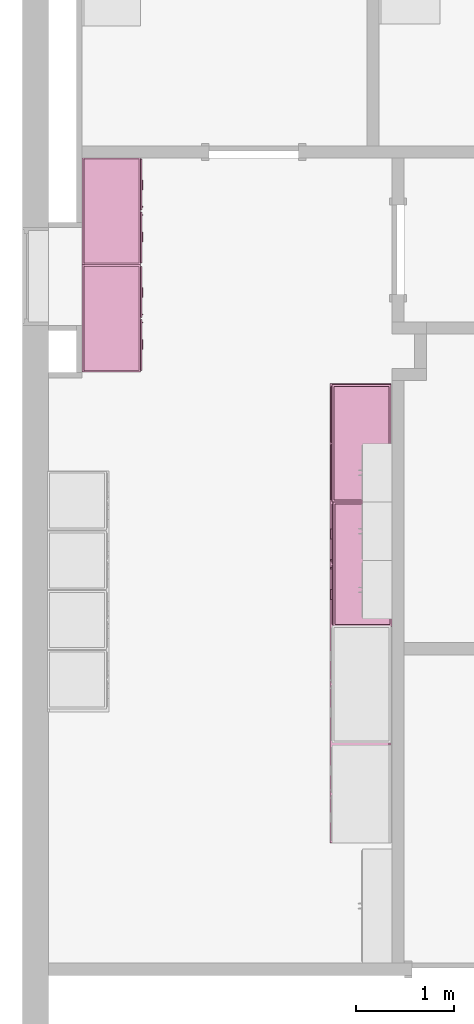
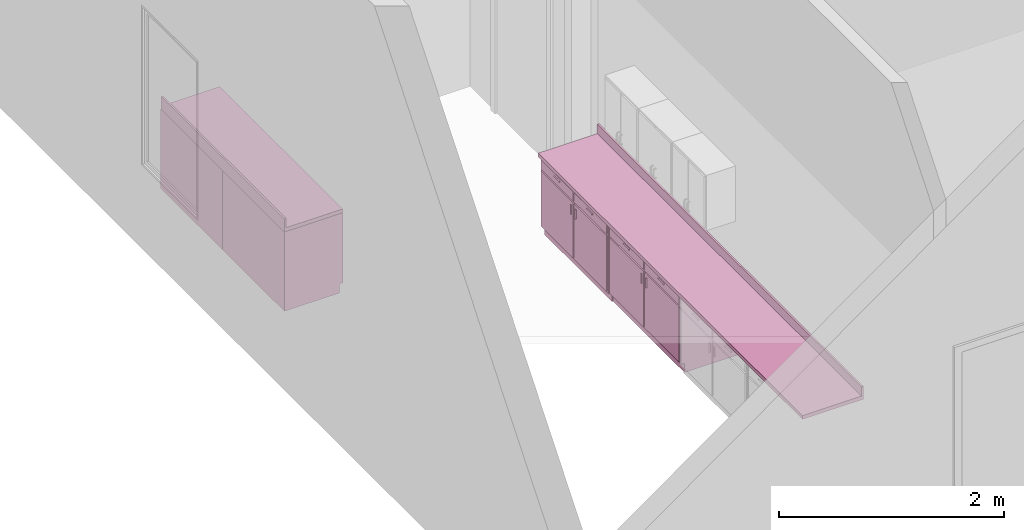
# One storey, part 43 of 47: 6 furnishings, 1 opening.
"""IFC2X3 building model written with IfcOpenShell, lengths in metres."""

import ifcopenshell
import ifcopenshell.guid

model = None  # the IFC model being written
_history = None  # IfcOwnerHistory: only IFC2X3 demands one
_inside = {}  # id of a spatial element -> (the spatial element, [elements in it])
_under = {}  # id of a project, library or spatial element -> (it, [spatial elements below it])
_declared = {}  # id of a project -> (the project, [libraries it declares])
_typed = {}  # id of a type object -> (the type object, [elements of that type])
_made_of = {}  # id of a material, layer set ... -> (it, [elements and type objects made of it])


def new_model(schema):
    """Start an empty IFC model of exactly this schema.

    Asked for "IFC4X3", IfcOpenShell would pick the latest addendum, in which some entities
    have other attributes; the version numbers below select the first issue.
    IFC2X3 requires an IfcOwnerHistory on every rooted entity: one is made here for all.
    """
    global model, _history
    if schema == "IFC4X3":
        model = ifcopenshell.file(schema_version=(4, 3, 0, 0))
    else:
        model = ifcopenshell.file(schema=schema)
    _inside.clear()
    _under.clear()
    _declared.clear()
    _typed.clear()
    _made_of.clear()
    _history = None
    if model.schema == "IFC2X3":
        org = make("IfcOrganization", Name="unknown")
        user = make(
            "IfcPersonAndOrganization",
            ThePerson=make("IfcPerson", FamilyName="unknown"),
            TheOrganization=org,
        )
        app = make(
            "IfcApplication",
            ApplicationDeveloper=org,
            Version="unknown",
            ApplicationFullName="unknown",
            ApplicationIdentifier="unknown",
        )
        _history = make(
            "IfcOwnerHistory",
            OwningUser=user,
            OwningApplication=app,
            ChangeAction="ADDED",
            CreationDate=0,
        )
    return model


def make(cls, **values):
    """One entity of the class cls with the attributes given. An attribute that is None is left unset."""
    return model.create_entity(
        cls, **{name: value for name, value in values.items() if value is not None}
    )


def entity(cls, *values):
    """Any entity or typed value of the class cls, its attributes in the order of the schema. None: left unset."""
    e = model.create_entity(cls)
    for i, value in enumerate(values):
        if value is not None:
            e[i] = value
    return e


def rooted(cls, **values):
    """An entity with a GlobalId (a new one), such as an element, a storey or a relation."""
    return make(cls, GlobalId=ifcopenshell.guid.new(), OwnerHistory=_history, **values)


def si_unit(unit_type, name, prefix=None):
    """IfcSIUnit, for example si_unit("LENGTHUNIT", "METRE", prefix="MILLI")."""
    return make("IfcSIUnit", UnitType=unit_type, Prefix=prefix, Name=name)


def converted_unit(unit_type, name, factor, base, dimensions=None, offset=None):
    """IfcConversionBasedUnit, such as the inch: factor (a typed value) times the base unit."""
    return make(
        "IfcConversionBasedUnit"
        if offset is None
        else "IfcConversionBasedUnitWithOffset",
        ConversionOffset=offset,
        Dimensions=None
        if dimensions is None
        else entity("IfcDimensionalExponents", *dimensions),
        UnitType=unit_type,
        Name=name,
        ConversionFactor=make(
            "IfcMeasureWithUnit", ValueComponent=factor, UnitComponent=base
        ),
    )


def assignment(units):
    """IfcUnitAssignment: the units of a project."""
    return None if units is None else make("IfcUnitAssignment", Units=units)


def point(xyz):
    """IfcCartesianPoint."""
    return None if xyz is None else make("IfcCartesianPoint", Coordinates=xyz)


def direction(xyz):
    """IfcDirection."""
    return None if xyz is None else make("IfcDirection", DirectionRatios=xyz)


def frame(location, z_axis=None, x_axis=None):
    """IfcAxis2Placement3D, a coordinate frame: its origin and axes. An axis left out is left unset."""
    return make(
        "IfcAxis2Placement3D",
        Location=point(location),
        Axis=direction(z_axis),
        RefDirection=direction(x_axis),
    )


def frame_2d(location, x_axis=None):
    """IfcAxis2Placement2D, a coordinate frame in the plane: its origin and x axis."""
    return make(
        "IfcAxis2Placement2D", Location=point(location), RefDirection=direction(x_axis)
    )


def origin():
    """The frame at (0, 0, 0) with its axes left unset."""
    return frame((0.0, 0.0, 0.0))


def origin_2d_with_axis():
    """The frame at (0, 0) in the plane with the x axis (1, 0) written out."""
    return frame_2d((0.0, 0.0), x_axis=(1.0, 0.0))


def place(relative_to, where):
    """IfcLocalPlacement: puts the frame where relative to a parent placement (None: the world)."""
    return make(
        "IfcLocalPlacement", PlacementRelTo=relative_to, RelativePlacement=where
    )


def context(
    kind, dimensions, precision=None, world=None, true_north=None, identifier=None
):
    """IfcGeometricRepresentationContext, for example the 3D "Model" context."""
    return make(
        "IfcGeometricRepresentationContext",
        ContextIdentifier=identifier,
        ContextType=kind,
        CoordinateSpaceDimension=dimensions,
        Precision=precision,
        WorldCoordinateSystem=world,
        TrueNorth=true_north,
    )


def project(units=None, contexts=None):
    """IfcProject with its units and contexts."""
    return rooted(
        "IfcProject",
        Name="project",
        RepresentationContexts=contexts,
        UnitsInContext=assignment(units),
    )


def spatial(cls, under=None, at=None, **own):
    """A site, building, storey or space (cls), placed at a placement, below another one or the project."""
    s = rooted(cls, ObjectPlacement=at, **own)
    if under is not None:
        _under.setdefault(under.id(), (under, []))[1].append(s)
    return s


def polyline(points):
    """IfcPolyline through the points."""
    return make("IfcPolyline", Points=[point(p) for p in points])


def circle_curve(where, radius):
    """IfcCircle in the frame where."""
    return make("IfcCircle", Position=where, Radius=radius)


def parameter(value):
    """IfcParameterValue: where a trimmed curve begins or ends, as a parameter of its basis curve."""
    return model.create_entity("IfcParameterValue", value)


def trimmed(basis, trim1, trim2, sense, master):
    """IfcTrimmedCurve: the piece of a basis curve between two trims."""
    return make(
        "IfcTrimmedCurve",
        BasisCurve=basis,
        Trim1=trim1,
        Trim2=trim2,
        SenseAgreement=sense,
        MasterRepresentation=master,
    )


def segment(curve, same_sense, transition):
    """IfcCompositeCurveSegment."""
    return make(
        "IfcCompositeCurveSegment",
        Transition=transition,
        SameSense=same_sense,
        ParentCurve=curve,
    )


def composite_curve(segments, self_intersect=None):
    """IfcCompositeCurve: segments joined end to end."""
    return make("IfcCompositeCurve", Segments=segments, SelfIntersect=self_intersect)


def profile(cls, at=None, kind="AREA", **sizes):
    """A parametric profile (cls). Its sizes go by their IFC names, for example OverallWidth=200.0."""
    return make(cls, ProfileType=kind, Position=at, **sizes)


def rectangle(**sizes):
    """IfcRectangleProfileDef."""
    return profile("IfcRectangleProfileDef", **sizes)


def outline(outer, holes=None, kind="AREA"):
    """IfcArbitraryClosedProfileDef: a profile drawn as a closed curve; with holes, ...WithVoids."""
    if holes is None:
        return make("IfcArbitraryClosedProfileDef", ProfileType=kind, OuterCurve=outer)
    return make(
        "IfcArbitraryProfileDefWithVoids",
        ProfileType=kind,
        OuterCurve=outer,
        InnerCurves=holes,
    )


def extrude(swept, where, along, depth):
    """IfcExtrudedAreaSolid: the profile swept, set in the frame where, extruded along a direction by depth."""
    return make(
        "IfcExtrudedAreaSolid",
        SweptArea=swept,
        Position=where,
        ExtrudedDirection=direction(along),
        Depth=depth,
    )


def faces_of(points, faces, orient=None, outer=None):
    """IfcFace entities. A face is a list of loops; a loop is a list of indices into points, from 0.

    orient and outer hold one flag for each loop. By default every Orientation is true, the
    first loop of a face is its IfcFaceOuterBound and the others are IfcFaceBound.
    """
    made = []
    for i, loops in enumerate(faces):
        bounds = []
        for j, loop in enumerate(loops):
            is_outer = j == 0 if outer is None else outer[i][j]
            bounds.append(
                make(
                    "IfcFaceOuterBound" if is_outer else "IfcFaceBound",
                    Bound=make("IfcPolyLoop", Polygon=[points[k] for k in loop]),
                    Orientation=True if orient is None else orient[i][j],
                )
            )
        made.append(make("IfcFace", Bounds=bounds))
    return made


def face_set(faces, orient=None, outer=None):
    """The faces of one IfcConnectedFaceSet. surface_model builds it on its shared points."""
    return ("IfcConnectedFaceSet", faces, orient, outer)


def surface_model(cls, points, shells):
    """IfcFaceBasedSurfaceModel or IfcShellBasedSurfaceModel (cls): surfaces that need not close."""
    shared = [point(p) for p in points]
    made = [make(c, CfsFaces=faces_of(shared, fs, o, b)) for c, fs, o, b in shells]
    if cls == "IfcFaceBasedSurfaceModel":
        return make(cls, FbsmFaces=made)
    return make(cls, SbsmBoundary=made)


def shape(context_of_items, identifier, shape_type, items):
    """IfcShapeRepresentation: the items that make up one representation, for example the "Body"."""
    return make(
        "IfcShapeRepresentation",
        ContextOfItems=context_of_items,
        RepresentationIdentifier=identifier,
        RepresentationType=shape_type,
        Items=items,
    )


def source(mapping_origin, context_of_items, identifier, shape_type, items):
    """IfcRepresentationMap: a shape defined once, which mapped items show again and again."""
    return make(
        "IfcRepresentationMap",
        MappingOrigin=mapping_origin,
        MappedRepresentation=shape(context_of_items, identifier, shape_type, items),
    )


def transform(
    local_origin,
    x_axis=None,
    y_axis=None,
    z_axis=None,
    scale=None,
    scale2=None,
    scale3=None,
    uniform=True,
):
    """IfcCartesianTransformationOperator3D, or its non-uniform kind. x_axis, y_axis, z_axis: its Axis1, 2, 3."""
    if uniform:
        return make(
            "IfcCartesianTransformationOperator3D",
            Axis1=direction(x_axis),
            Axis2=direction(y_axis),
            LocalOrigin=point(local_origin),
            Scale=scale,
            Axis3=direction(z_axis),
        )
    return make(
        "IfcCartesianTransformationOperator3DnonUniform",
        Axis1=direction(x_axis),
        Axis2=direction(y_axis),
        LocalOrigin=point(local_origin),
        Scale=scale,
        Axis3=direction(z_axis),
        Scale2=scale2,
        Scale3=scale3,
    )


def mapped(mapping_source, mapping_target):
    """IfcMappedItem: shows the shape of a source again, moved by a transform."""
    return make(
        "IfcMappedItem", MappingSource=mapping_source, MappingTarget=mapping_target
    )


def made_of(thing, what):
    """Note that an element or type object is made of a material, layer set ...; save() writes the relation."""
    if what is not None:
        _made_of.setdefault(what.id(), (what, []))[1].append(thing)
    return thing


def type_object(cls, material=None, **own):
    """A type object (cls), such as IfcWallType, which elements share."""
    return made_of(rooted(cls, **own), material)


def type_shapes(of_type, sources):
    """Give a type object the sources (RepresentationMaps) that its elements show as mapped items."""
    of_type.RepresentationMaps = sources


def element(
    cls,
    number,
    at=None,
    inside=None,
    cuts=None,
    type_object=None,
    material=None,
    context=None,
    identifier="Body",
    shape_type=None,
    held_by="IfcProductDefinitionShape",
    body=None,
    shapes=None,
    **own,
):
    """One element of the class cls, such as IfcWall. Its Tag is "e" and its number.

    at: its placement. inside: the storey or other place that contains it. cuts: it is an
    opening in that element (IfcRelVoidsElement). A single representation is given by context,
    identifier, shape_type and body (its items); several are given by shapes. held_by: the class
    of the entity that holds the representations. save() writes the other relations.
    """
    e = rooted(cls, Tag="e%d" % number, ObjectPlacement=at, **own)
    if body is not None:
        shapes = [shape(context, identifier, shape_type, body)]
    if shapes is not None:
        e.Representation = make(held_by, Representations=shapes)
    if inside is not None:
        _inside.setdefault(inside.id(), (inside, []))[1].append(e)
    if cuts is not None:
        rooted(
            "IfcRelVoidsElement", RelatingBuildingElement=cuts, RelatedOpeningElement=e
        )
    if type_object is not None:
        _typed.setdefault(type_object.id(), (type_object, []))[1].append(e)
    return made_of(e, material)


def aggregate(whole, parts):
    """IfcRelAggregates: a whole, such as a stair, and the parts it consists of."""
    return rooted("IfcRelAggregates", RelatingObject=whole, RelatedObjects=parts)


def save(model, path):
    """Write the relations noted so far, then the file.

    IfcRelAggregates (storeys below a building ...), IfcRelContainedInSpatialStructure (elements
    in a storey), IfcRelDefinesByType, IfcRelAssociatesMaterial and IfcRelDeclares: one each for
    every whole, place, type object, material and project.
    """
    for whole, parts in _under.values():
        aggregate(whole, parts)
    for where, things in _inside.values():
        rooted(
            "IfcRelContainedInSpatialStructure",
            RelatedElements=things,
            RelatingStructure=where,
        )
    for kind, things in _typed.values():
        rooted("IfcRelDefinesByType", RelatedObjects=things, RelatingType=kind)
    for what, things in _made_of.values():
        rooted("IfcRelAssociatesMaterial", RelatedObjects=things, RelatingMaterial=what)
    for by, libraries in _declared.values():
        rooted("IfcRelDeclares", RelatingContext=by, RelatedDefinitions=libraries)
    model.write(path)


model = new_model("IFC2X3")

# Units and contexts
model_context = context("Model", 3, precision=1e-09, world=origin())
plan_context = context("Plan", 3, precision=1e-09, world=origin())
ifc_project = project(units=[si_unit("LENGTHUNIT", "METRE"), si_unit("AREAUNIT", "SQUARE_METRE"), si_unit("VOLUMEUNIT", "CUBIC_METRE"), converted_unit("PLANEANGLEUNIT", "DEGREE", entity("IfcRatioMeasure", 0.01745329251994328), si_unit("PLANEANGLEUNIT", "RADIAN"), dimensions=[0, 0, 0, 0, 0, 0, 0]), si_unit("TIMEUNIT", "SECOND")], contexts=[model_context, plan_context])

# Site, building, storey, space
site_placement = place(None, origin())
site = spatial("IfcSite", under=ifc_project, at=site_placement, Name="Default", CompositionType="ELEMENT")
building_placement = place(site_placement, origin())
building = spatial("IfcBuilding", under=site, at=building_placement, CompositionType="ELEMENT")
storey_placement = place(building_placement, frame((0.0, 0.0, 4.570000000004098)))
storey = spatial("IfcBuildingStorey", under=building, at=storey_placement, Name="Second Floor", CompositionType="ELEMENT", Elevation=4.570000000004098)
space_placement = place(storey_placement, origin())
space = spatial("IfcSpace", under=storey, at=space_placement, Name="2C17", CompositionType="ELEMENT", InteriorOrExteriorSpace="INTERNAL")

# Furnishings
furniture_type_1 = type_object("IfcFurnitureType", Name="1200mm", AssemblyPlace="NOTDEFINED")
shared_shape_1 = source(origin(), model_context, "Body", "SurfaceModel", [
    surface_model("IfcFaceBasedSurfaceModel", [(1.180949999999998, 0.04445000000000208, 0.86000000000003), (1.180949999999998, 0.04445000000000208, 0.09999999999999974), (0.01905000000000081, 0.04445000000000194, 0.09999999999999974), (0.01905000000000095, 0.04445000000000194, 0.86000000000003), (1.2, 0.02540000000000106, 0.8600000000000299), (0.0, 0.02540000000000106, 0.8600000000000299), (1.2, 0.02540000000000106, 0.09999999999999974), (0.0, 0.02540000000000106, 0.0999999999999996), (0.01905000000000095, 0.6063499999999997, 0.86000000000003), (0.01905000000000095, 0.6063499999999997, 0.09999999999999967), (0.01905000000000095, 0.06040000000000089, 0.09999999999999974), (0.0, 0.6254000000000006, 0.8600000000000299), (0.0, 0.6254000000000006, 0.0), (0.0, 0.06040000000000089, 0.0), (0.0, 0.06040000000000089, 0.09999999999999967), (1.180949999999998, 0.6063499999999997, 0.86000000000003), (1.180949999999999, 0.6063499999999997, 0.09999999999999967), (1.2, 0.6254000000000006, 0.8600000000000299), (1.2, 0.6254000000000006, 0.0), (1.180949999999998, 0.06040000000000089, 0.09999999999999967), (1.2, 0.06040000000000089, 0.09999999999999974), (1.2, 0.06040000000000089, 0.0), (0.3603250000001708, 0.0, 0.8155500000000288), (0.3603250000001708, 0.0, 0.8028500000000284), (0.258725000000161, 0.0, 0.8028500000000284), (0.258725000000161, 0.0, 0.8155500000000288), (0.9412750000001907, 0.0, 0.8155500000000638), (0.9412750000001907, 0.0, 0.8028500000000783), (0.8396750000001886, 0.0, 0.8028500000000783), (0.8396750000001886, 0.0, 0.8155500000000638), (0.5650750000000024, 0.0, 0.6822000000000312), (0.5650750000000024, 0.0, 0.5806000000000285), (0.5523750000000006, 0.0, 0.5806000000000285), (0.5523750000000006, 0.0, 0.6822000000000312), (0.6476249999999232, 0.0, 0.6822000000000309), (0.6476249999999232, 0.0, 0.5806000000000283), (0.6349249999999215, 0.0, 0.5806000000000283), (0.6349249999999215, 0.0, 0.6822000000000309), (0.3603250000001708, 0.01270000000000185, 0.8155500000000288), (0.3603250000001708, 0.01270000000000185, 0.8028500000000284), (0.2587250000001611, 0.01270000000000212, 0.8028500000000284), (0.2587250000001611, 0.01270000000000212, 0.8155500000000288), (0.9412750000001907, 0.01269999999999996, 0.8155500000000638), (0.9412750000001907, 0.01269999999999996, 0.8028500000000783), (0.8396750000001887, 0.01270000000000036, 0.8028500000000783), (0.8396750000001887, 0.01270000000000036, 0.8155500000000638), (0.5650750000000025, 0.01270000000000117, 0.6822000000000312), (0.5650750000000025, 0.01270000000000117, 0.5806000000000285), (0.5523750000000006, 0.01270000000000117, 0.5806000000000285), (0.5523750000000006, 0.01270000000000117, 0.6822000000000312), (0.6476249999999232, 0.0127000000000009, 0.6822000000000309), (0.6476249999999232, 0.0127000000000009, 0.5806000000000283), (0.6349249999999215, 0.0127000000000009, 0.5806000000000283), (0.6349249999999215, 0.0127000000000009, 0.6822000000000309), (0.5904749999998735, 0.01270000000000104, 0.8409500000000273), (0.5904749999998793, 0.01270000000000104, 0.7393500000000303), (0.01905000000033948, 0.0127000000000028, 0.7393500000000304), (0.01905000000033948, 0.0127000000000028, 0.8409500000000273), (1.180950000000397, 0.01269999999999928, 0.8409500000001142), (1.180950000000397, 0.01269999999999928, 0.7393500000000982), (0.6095249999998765, 0.01270000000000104, 0.7393500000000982), (0.6095249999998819, 0.01270000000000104, 0.8409500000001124), (0.5904749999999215, 0.01270000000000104, 0.7203000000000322), (0.5904749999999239, 0.01270000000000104, 0.1190499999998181), (0.01905000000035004, 0.0127000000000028, 0.1190499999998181), (0.01905000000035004, 0.0127000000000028, 0.7203000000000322), (1.180950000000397, 0.01269999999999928, 0.7203000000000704), (1.180950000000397, 0.01269999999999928, 0.1190499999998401), (0.6095249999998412, 0.01270000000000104, 0.1190499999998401), (0.6095249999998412, 0.01270000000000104, 0.7203000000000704), (0.5904749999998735, 0.02540000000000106, 0.8409500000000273), (0.5904749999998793, 0.02540000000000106, 0.7393500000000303), (0.01905000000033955, 0.02540000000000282, 0.7393500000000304), (0.01905000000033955, 0.02540000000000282, 0.8409500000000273), (1.180950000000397, 0.02539999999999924, 0.8409500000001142), (1.180950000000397, 0.02539999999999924, 0.7393500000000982), (0.6095249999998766, 0.025400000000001, 0.7393500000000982), (0.6095249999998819, 0.025400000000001, 0.8409500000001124), (0.5904749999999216, 0.02540000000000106, 0.7203000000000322), (0.5904749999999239, 0.02540000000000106, 0.1190499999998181), (0.01905000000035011, 0.02540000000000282, 0.1190499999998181), (0.01905000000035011, 0.02540000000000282, 0.7203000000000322), (1.180950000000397, 0.02539999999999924, 0.7203000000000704), (1.180950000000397, 0.02539999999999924, 0.1190499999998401), (0.6095249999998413, 0.025400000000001, 0.1190499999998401), (0.6095249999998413, 0.025400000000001, 0.7203000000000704), (1.180949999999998, 0.6063499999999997, 0.1190499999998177), (1.180949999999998, 0.04445000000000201, 0.1190499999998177), (0.01905000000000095, 0.04445000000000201, 0.1190499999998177), (0.01905000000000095, 0.6063499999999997, 0.1190499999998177), (1.180949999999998, 0.6063499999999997, 0.09999999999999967), (1.180949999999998, 0.04445000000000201, 0.09999999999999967), (0.01905000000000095, 0.04445000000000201, 0.09999999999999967), (0.01905000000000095, 0.6063499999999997, 0.09999999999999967)], [face_set([[[0, 1, 2, 3]], [[0, 4, 5, 3]], [[4, 6, 7, 5]], [[2, 1, 6, 7]], [[3, 8, 9, 10, 2]], [[5, 11, 8, 3]], [[7, 5, 11, 12, 13, 14]], [[2, 7, 14, 10]], [[8, 15, 16, 9]], [[11, 17, 15, 8]], [[12, 11, 17, 18]], [[1, 19, 16, 15, 0]], [[0, 15, 17, 4]], [[4, 6, 20, 21, 18, 17]], [[6, 1, 19, 20]], [[10, 9, 16, 19]], [[18, 21, 13, 12]], [[13, 14, 10, 19, 20, 21]]]), face_set([[[22, 23, 24, 25]], [[26, 27, 28, 29]], [[30, 31, 32, 33]], [[34, 35, 36, 37]], [[38, 39, 40, 41]], [[42, 43, 44, 45]], [[46, 47, 48, 49]], [[50, 51, 52, 53]], [[25, 41, 38, 22]], [[24, 40, 41, 25]], [[23, 24, 40, 39]], [[22, 23, 39, 38]], [[29, 45, 42, 26]], [[28, 44, 45, 29]], [[27, 28, 44, 43]], [[26, 27, 43, 42]], [[33, 49, 46, 30]], [[32, 48, 49, 33]], [[31, 32, 48, 47]], [[30, 31, 47, 46]], [[37, 53, 50, 34]], [[36, 52, 53, 37]], [[35, 36, 52, 51]], [[34, 35, 51, 50]]]), face_set([[[54, 55, 56, 57]], [[58, 59, 60, 61]], [[62, 63, 64, 65]], [[66, 67, 68, 69]], [[70, 71, 72, 73]], [[74, 75, 76, 77]], [[78, 79, 80, 81]], [[82, 83, 84, 85]], [[57, 73, 70, 54]], [[56, 57, 73, 72]], [[55, 56, 72, 71]], [[54, 55, 71, 70]], [[61, 77, 74, 58]], [[60, 76, 77, 61]], [[59, 60, 76, 75]], [[58, 59, 75, 74]], [[65, 81, 78, 62]], [[64, 65, 81, 80]], [[63, 64, 80, 79]], [[62, 63, 79, 78]], [[69, 85, 82, 66]], [[68, 84, 85, 69]], [[67, 68, 84, 83]], [[66, 67, 83, 82]]]), face_set([[[86, 87, 88, 89]], [[90, 91, 92, 93]], [[89, 86, 90, 93]], [[88, 89, 93, 92]], [[87, 91, 92, 88]], [[86, 87, 91, 90]]])]),
])
type_shapes(furniture_type_1, [shared_shape_1])
furnishing_1_placement = place(space_placement, frame((-44.23500000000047, 44.4370404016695, 0.0), z_axis=(0.0, 0.0, 1.0), x_axis=(0.0, -1.0, 0.0)))
element("IfcFurnishingElement", 1, at=furnishing_1_placement, inside=space, type_object=furniture_type_1, Name="M_Base Cabinet-Double Door & 2 Drawer:1200mm:1200mm", ObjectType="1200mm", context=model_context, shape_type="MappedRepresentation", body=[
    mapped(shared_shape_1, transform((0.0, 0.0, 0.0), scale=1.0)),
])
furniture_type_2 = type_object("IfcFurnitureType", Name="1270mm", AssemblyPlace="NOTDEFINED")
shared_shape_2 = source(origin(), model_context, "Body", "SurfaceModel", [
    surface_model("IfcFaceBasedSurfaceModel", [(1.250949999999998, 0.04445000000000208, 0.86000000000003), (1.250949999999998, 0.04445000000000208, 0.09999999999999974), (0.01905000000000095, 0.04445000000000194, 0.09999999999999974), (0.01905000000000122, 0.04445000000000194, 0.86000000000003), (1.269999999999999, 0.02540000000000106, 0.8600000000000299), (0.0, 0.02540000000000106, 0.8600000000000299), (1.269999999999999, 0.02540000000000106, 0.09999999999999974), (0.0, 0.02540000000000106, 0.0999999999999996), (0.01905000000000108, 0.6063499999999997, 0.86000000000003), (0.01905000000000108, 0.6063499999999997, 0.09999999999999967), (0.01905000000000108, 0.06040000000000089, 0.09999999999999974), (0.0, 0.6254000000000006, 0.8600000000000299), (0.0, 0.6254000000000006, 0.0), (0.0, 0.06040000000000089, 0.0), (0.0, 0.06040000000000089, 0.09999999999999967), (1.250949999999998, 0.6063499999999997, 0.86000000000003), (1.250949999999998, 0.6063499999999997, 0.09999999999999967), (1.269999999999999, 0.6254000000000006, 0.8600000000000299), (1.269999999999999, 0.6254000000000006, 0.0), (1.250949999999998, 0.06040000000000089, 0.09999999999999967), (1.269999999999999, 0.06040000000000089, 0.09999999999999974), (1.269999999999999, 0.06040000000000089, 0.0), (0.3778250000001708, 0.0, 0.8155500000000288), (0.3778250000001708, 0.0, 0.8028500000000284), (0.276225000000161, 0.0, 0.8028500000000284), (0.276225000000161, 0.0, 0.8155500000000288), (0.9937750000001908, 0.0, 0.8155500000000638), (0.9937750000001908, 0.0, 0.8028500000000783), (0.8921750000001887, 0.0, 0.8028500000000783), (0.8921750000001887, 0.0, 0.8155500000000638), (0.6000750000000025, 0.0, 0.6822000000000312), (0.6000750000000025, 0.0, 0.5806000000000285), (0.5873750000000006, 0.0, 0.5806000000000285), (0.5873750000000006, 0.0, 0.6822000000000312), (0.6826249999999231, 0.0, 0.6822000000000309), (0.6826249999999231, 0.0, 0.5806000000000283), (0.6699249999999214, 0.0, 0.5806000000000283), (0.6699249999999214, 0.0, 0.6822000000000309), (0.3778250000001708, 0.01270000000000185, 0.8155500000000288), (0.3778250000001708, 0.01270000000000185, 0.8028500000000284), (0.2762250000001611, 0.01270000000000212, 0.8028500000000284), (0.276225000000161, 0.01270000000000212, 0.8155500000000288), (0.993775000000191, 0.01269999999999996, 0.8155500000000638), (0.993775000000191, 0.01269999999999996, 0.8028500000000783), (0.8921750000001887, 0.01270000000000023, 0.8028500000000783), (0.8921750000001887, 0.01270000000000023, 0.8155500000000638), (0.6000750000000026, 0.01270000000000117, 0.6822000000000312), (0.6000750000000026, 0.01270000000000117, 0.5806000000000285), (0.5873750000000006, 0.01270000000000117, 0.5806000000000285), (0.5873750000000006, 0.01270000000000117, 0.6822000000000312), (0.6826249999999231, 0.0127000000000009, 0.6822000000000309), (0.6826249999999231, 0.0127000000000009, 0.5806000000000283), (0.6699249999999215, 0.0127000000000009, 0.5806000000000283), (0.6699249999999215, 0.0127000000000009, 0.6822000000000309), (0.6254749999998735, 0.01270000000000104, 0.8409500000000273), (0.6254749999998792, 0.01270000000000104, 0.7393500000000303), (0.01905000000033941, 0.01270000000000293, 0.7393500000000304), (0.01905000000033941, 0.01270000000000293, 0.8409500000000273), (1.250950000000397, 0.01269999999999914, 0.8409500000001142), (1.250950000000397, 0.01269999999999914, 0.7393500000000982), (0.6445249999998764, 0.01270000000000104, 0.7393500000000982), (0.6445249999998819, 0.01270000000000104, 0.8409500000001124), (0.6254749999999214, 0.01270000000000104, 0.7203000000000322), (0.6254749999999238, 0.01270000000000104, 0.1190499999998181), (0.01905000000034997, 0.01270000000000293, 0.1190499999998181), (0.01905000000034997, 0.01270000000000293, 0.7203000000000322), (1.250950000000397, 0.01269999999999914, 0.7203000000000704), (1.250950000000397, 0.01269999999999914, 0.1190499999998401), (0.6445249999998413, 0.01270000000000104, 0.1190499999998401), (0.6445249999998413, 0.01270000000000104, 0.7203000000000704), (0.6254749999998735, 0.025400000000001, 0.8409500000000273), (0.6254749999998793, 0.025400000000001, 0.7393500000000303), (0.01905000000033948, 0.02540000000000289, 0.7393500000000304), (0.01905000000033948, 0.02540000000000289, 0.8409500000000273), (1.250950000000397, 0.0253999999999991, 0.8409500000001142), (1.250950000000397, 0.0253999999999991, 0.7393500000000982), (0.6445249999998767, 0.025400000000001, 0.7393500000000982), (0.6445249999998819, 0.025400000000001, 0.8409500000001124), (0.6254749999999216, 0.025400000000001, 0.7203000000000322), (0.625474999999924, 0.025400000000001, 0.1190499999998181), (0.01905000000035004, 0.02540000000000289, 0.1190499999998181), (0.01905000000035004, 0.02540000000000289, 0.7203000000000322), (1.250950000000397, 0.0253999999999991, 0.7203000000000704), (1.250950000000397, 0.0253999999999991, 0.1190499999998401), (0.6445249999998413, 0.025400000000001, 0.1190499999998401), (0.6445249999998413, 0.025400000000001, 0.7203000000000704), (1.250949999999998, 0.6063499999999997, 0.1190499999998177), (1.250949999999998, 0.04445000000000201, 0.1190499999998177), (0.01905000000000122, 0.04445000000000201, 0.1190499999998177), (0.01905000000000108, 0.6063499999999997, 0.1190499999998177), (1.250949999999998, 0.6063499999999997, 0.09999999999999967), (1.250949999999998, 0.04445000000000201, 0.09999999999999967), (0.01905000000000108, 0.04445000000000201, 0.09999999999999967), (0.01905000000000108, 0.6063499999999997, 0.09999999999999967)], [face_set([[[0, 1, 2, 3]], [[0, 4, 5, 3]], [[4, 6, 7, 5]], [[2, 1, 6, 7]], [[3, 8, 9, 10, 2]], [[5, 11, 8, 3]], [[7, 5, 11, 12, 13, 14]], [[2, 7, 14, 10]], [[8, 15, 16, 9]], [[11, 17, 15, 8]], [[12, 11, 17, 18]], [[1, 19, 16, 15, 0]], [[0, 15, 17, 4]], [[4, 6, 20, 21, 18, 17]], [[6, 1, 19, 20]], [[10, 9, 16, 19]], [[18, 21, 13, 12]], [[13, 14, 10, 19, 20, 21]]]), face_set([[[22, 23, 24, 25]], [[26, 27, 28, 29]], [[30, 31, 32, 33]], [[34, 35, 36, 37]], [[38, 39, 40, 41]], [[42, 43, 44, 45]], [[46, 47, 48, 49]], [[50, 51, 52, 53]], [[25, 41, 38, 22]], [[24, 40, 41, 25]], [[23, 24, 40, 39]], [[22, 23, 39, 38]], [[29, 45, 42, 26]], [[28, 44, 45, 29]], [[27, 28, 44, 43]], [[26, 27, 43, 42]], [[33, 49, 46, 30]], [[32, 48, 49, 33]], [[31, 32, 48, 47]], [[30, 31, 47, 46]], [[37, 53, 50, 34]], [[36, 52, 53, 37]], [[35, 36, 52, 51]], [[34, 35, 51, 50]]]), face_set([[[54, 55, 56, 57]], [[58, 59, 60, 61]], [[62, 63, 64, 65]], [[66, 67, 68, 69]], [[70, 71, 72, 73]], [[74, 75, 76, 77]], [[78, 79, 80, 81]], [[82, 83, 84, 85]], [[57, 73, 70, 54]], [[56, 57, 73, 72]], [[55, 56, 72, 71]], [[54, 55, 71, 70]], [[61, 77, 74, 58]], [[60, 76, 77, 61]], [[59, 60, 76, 75]], [[58, 59, 75, 74]], [[65, 81, 78, 62]], [[64, 65, 81, 80]], [[63, 64, 80, 79]], [[62, 63, 79, 78]], [[69, 85, 82, 66]], [[68, 84, 85, 69]], [[67, 68, 84, 83]], [[66, 67, 83, 82]]]), face_set([[[86, 87, 88, 89]], [[90, 91, 92, 93]], [[89, 86, 90, 93]], [[88, 89, 93, 92]], [[87, 91, 92, 88]], [[86, 87, 91, 90]]])]),
])
type_shapes(furniture_type_2, [shared_shape_2])
furnishing_2_placement = place(space_placement, frame((-44.22540000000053, 43.23574040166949, 0.0), z_axis=(0.0, 0.0, 1.0), x_axis=(0.0, -1.0, 0.0)))
element("IfcFurnishingElement", 2, at=furnishing_2_placement, inside=space, type_object=furniture_type_2, Name="M_Base Cabinet-Double Door & 2 Drawer:1270mm:1270mm", ObjectType="1270mm", context=model_context, shape_type="MappedRepresentation", body=[
    mapped(shared_shape_2, transform((0.0, 0.0, 0.0), scale=1.0)),
])
furniture_type_3 = type_object("IfcFurnitureType", Name="1100mm", AssemblyPlace="NOTDEFINED")
shared_shape_3 = source(origin(), model_context, "Body", "SurfaceModel", [
    surface_model("IfcFaceBasedSurfaceModel", [(1.080949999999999, 0.04445000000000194, 0.86000000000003), (1.080949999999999, 0.04445000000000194, 0.09999999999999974), (0.01905000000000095, 0.04445000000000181, 0.09999999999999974), (0.01905000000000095, 0.04445000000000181, 0.86000000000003), (1.1, 0.02540000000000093, 0.8600000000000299), (0.0, 0.02540000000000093, 0.8600000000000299), (1.1, 0.02540000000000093, 0.09999999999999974), (0.0, 0.025400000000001, 0.0999999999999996), (0.01905000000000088, 0.6063499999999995, 0.86000000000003), (0.01905000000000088, 0.6063499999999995, 0.09999999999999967), (0.01905000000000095, 0.06040000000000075, 0.09999999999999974), (0.0, 0.6254000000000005, 0.8600000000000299), (0.0, 0.6254000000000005, 0.0), (0.0, 0.06040000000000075, 0.0), (0.0, 0.06040000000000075, 0.09999999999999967), (1.080949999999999, 0.6063499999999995, 0.86000000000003), (1.080949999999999, 0.6063499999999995, 0.09999999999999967), (1.1, 0.6254000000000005, 0.8600000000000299), (1.1, 0.6254000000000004, 0.0), (1.080949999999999, 0.06040000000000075, 0.09999999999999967), (1.1, 0.06040000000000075, 0.09999999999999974), (1.1, 0.06040000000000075, 0.0), (0.3353250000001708, 0.0, 0.8155500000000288), (0.3353250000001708, 0.0, 0.8028500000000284), (0.2337250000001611, 0.0, 0.8028500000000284), (0.2337250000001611, 0.0, 0.8155500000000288), (0.866275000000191, 0.0, 0.8155500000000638), (0.866275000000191, 0.0, 0.8028500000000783), (0.7646750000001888, 0.0, 0.8028500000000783), (0.7646750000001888, 0.0, 0.8155500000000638), (0.5150750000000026, 0.0, 0.6822000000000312), (0.5150750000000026, 0.0, 0.5806000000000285), (0.5023750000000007, 0.0, 0.5806000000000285), (0.5023750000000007, 0.0, 0.6822000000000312), (0.5976249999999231, 0.0, 0.6822000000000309), (0.5976249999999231, 0.0, 0.5806000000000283), (0.5849249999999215, 0.0, 0.5806000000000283), (0.5849249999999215, 0.0, 0.6822000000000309), (0.3353250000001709, 0.01270000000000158, 0.8155500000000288), (0.3353250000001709, 0.01270000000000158, 0.8028500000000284), (0.2337250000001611, 0.01270000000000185, 0.8028500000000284), (0.2337250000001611, 0.01270000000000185, 0.8155500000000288), (0.8662750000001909, 0.01269999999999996, 0.8155500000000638), (0.8662750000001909, 0.01269999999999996, 0.8028500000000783), (0.7646750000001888, 0.01270000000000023, 0.8028500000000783), (0.7646750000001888, 0.01270000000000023, 0.8155500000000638), (0.5150750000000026, 0.01270000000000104, 0.6822000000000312), (0.5150750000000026, 0.01270000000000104, 0.5806000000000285), (0.5023750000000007, 0.01270000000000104, 0.5806000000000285), (0.5023750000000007, 0.01270000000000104, 0.6822000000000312), (0.5976249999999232, 0.01270000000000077, 0.6822000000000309), (0.5976249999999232, 0.01270000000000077, 0.5806000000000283), (0.5849249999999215, 0.01270000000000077, 0.5806000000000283), (0.5849249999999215, 0.01270000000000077, 0.6822000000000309), (0.5404749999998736, 0.0127000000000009, 0.8409500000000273), (0.5404749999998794, 0.0127000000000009, 0.7393500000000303), (0.01905000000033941, 0.01270000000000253, 0.7393500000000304), (0.01905000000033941, 0.01270000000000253, 0.8409500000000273), (1.080950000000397, 0.01269999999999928, 0.8409500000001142), (1.080950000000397, 0.01269999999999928, 0.7393500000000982), (0.5595249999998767, 0.0127000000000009, 0.7393500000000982), (0.5595249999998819, 0.0127000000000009, 0.8409500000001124), (0.5404749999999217, 0.0127000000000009, 0.7203000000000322), (0.540474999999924, 0.0127000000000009, 0.1190499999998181), (0.01905000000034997, 0.01270000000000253, 0.1190499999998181), (0.01905000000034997, 0.01270000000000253, 0.7203000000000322), (1.080950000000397, 0.01269999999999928, 0.7203000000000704), (1.080950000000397, 0.01269999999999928, 0.1190499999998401), (0.5595249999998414, 0.0127000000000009, 0.1190499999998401), (0.5595249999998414, 0.0127000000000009, 0.7203000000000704), (0.5404749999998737, 0.02540000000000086, 0.8409500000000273), (0.5404749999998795, 0.02540000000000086, 0.7393500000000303), (0.01905000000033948, 0.02540000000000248, 0.7393500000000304), (0.01905000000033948, 0.02540000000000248, 0.8409500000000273), (1.080950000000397, 0.02539999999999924, 0.8409500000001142), (1.080950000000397, 0.02539999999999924, 0.7393500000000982), (0.5595249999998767, 0.02540000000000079, 0.7393500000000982), (0.559524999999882, 0.02540000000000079, 0.8409500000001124), (0.5404749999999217, 0.02540000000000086, 0.7203000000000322), (0.5404749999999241, 0.02540000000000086, 0.1190499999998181), (0.01905000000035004, 0.02540000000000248, 0.1190499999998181), (0.01905000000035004, 0.02540000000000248, 0.7203000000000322), (1.080950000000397, 0.02539999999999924, 0.7203000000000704), (1.080950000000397, 0.02539999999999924, 0.1190499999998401), (0.5595249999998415, 0.02540000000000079, 0.1190499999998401), (0.5595249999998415, 0.02540000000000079, 0.7203000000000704), (1.080949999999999, 0.6063499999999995, 0.1190499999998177), (1.080949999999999, 0.04445000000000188, 0.1190499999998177), (0.01905000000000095, 0.04445000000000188, 0.1190499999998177), (0.01905000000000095, 0.6063499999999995, 0.1190499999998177), (1.080949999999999, 0.6063499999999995, 0.09999999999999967), (1.080949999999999, 0.04445000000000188, 0.09999999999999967), (0.01905000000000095, 0.04445000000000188, 0.09999999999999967), (0.01905000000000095, 0.6063499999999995, 0.09999999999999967)], [face_set([[[0, 1, 2, 3]], [[0, 4, 5, 3]], [[4, 6, 7, 5]], [[2, 1, 6, 7]], [[3, 8, 9, 10, 2]], [[5, 11, 8, 3]], [[7, 5, 11, 12, 13, 14]], [[2, 7, 14, 10]], [[8, 15, 16, 9]], [[11, 17, 15, 8]], [[12, 11, 17, 18]], [[1, 19, 16, 15, 0]], [[0, 15, 17, 4]], [[4, 6, 20, 21, 18, 17]], [[6, 1, 19, 20]], [[10, 9, 16, 19]], [[18, 21, 13, 12]], [[13, 14, 10, 19, 20, 21]]]), face_set([[[22, 23, 24, 25]], [[26, 27, 28, 29]], [[30, 31, 32, 33]], [[34, 35, 36, 37]], [[38, 39, 40, 41]], [[42, 43, 44, 45]], [[46, 47, 48, 49]], [[50, 51, 52, 53]], [[25, 41, 38, 22]], [[24, 40, 41, 25]], [[23, 24, 40, 39]], [[22, 23, 39, 38]], [[29, 45, 42, 26]], [[28, 44, 45, 29]], [[27, 28, 44, 43]], [[26, 27, 43, 42]], [[33, 49, 46, 30]], [[32, 48, 49, 33]], [[31, 32, 48, 47]], [[30, 31, 47, 46]], [[37, 53, 50, 34]], [[36, 52, 53, 37]], [[35, 36, 52, 51]], [[34, 35, 51, 50]]]), face_set([[[54, 55, 56, 57]], [[58, 59, 60, 61]], [[62, 63, 64, 65]], [[66, 67, 68, 69]], [[70, 71, 72, 73]], [[74, 75, 76, 77]], [[78, 79, 80, 81]], [[82, 83, 84, 85]], [[57, 73, 70, 54]], [[56, 57, 73, 72]], [[55, 56, 72, 71]], [[54, 55, 71, 70]], [[61, 77, 74, 58]], [[60, 76, 77, 61]], [[59, 60, 76, 75]], [[58, 59, 75, 74]], [[65, 81, 78, 62]], [[64, 65, 81, 80]], [[63, 64, 80, 79]], [[62, 63, 79, 78]], [[69, 85, 82, 66]], [[68, 84, 85, 69]], [[67, 68, 84, 83]], [[66, 67, 83, 82]]]), face_set([[[86, 87, 88, 89]], [[90, 91, 92, 93]], [[89, 86, 90, 93]], [[88, 89, 93, 92]], [[87, 91, 92, 88]], [[86, 87, 91, 90]]])]),
])
type_shapes(furniture_type_3, [shared_shape_3])
for number, where, z_axis, x_axis in (
    (3, (-46.14460000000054, 45.66512298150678, 0.0), (0.0, 0.0, 1.0), (0.0, 1.0, 0.0)),
    (4, (-46.14460000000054, 44.56512298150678, 0.0), (0.0, 0.0, 1.0), (0.0, 1.0, 0.0)),
):
    element("IfcFurnishingElement", number, at=place(space_placement, frame(where, z_axis=z_axis, x_axis=x_axis)), inside=space, type_object=furniture_type_3, Name="M_Base Cabinet-Double Door & 2 Drawer:1100mm:1100mm", ObjectType="1100mm", context=model_context, shape_type="MappedRepresentation", body=[
        mapped(shared_shape_3, transform((0.0, 0.0, 0.0), scale=1.0)),
    ])
furniture_type_4 = type_object("IfcFurnitureType", Name="600mm Depth", AssemblyPlace="NOTDEFINED")
shared_shape_4 = source(origin(), model_context, "Body", "SweptSolid", [
    extrude(rectangle(XDim=0.01905000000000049, YDim=2.189315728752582, at=origin_2d_with_axis()), frame((-0.1058044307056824, -0.009525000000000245, 0.9000000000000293), z_axis=(0.0, 0.0, 1.0), x_axis=(0.0, -1.0, 0.0)), (0.0, 0.0, 1.0), 0.1016000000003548),
    extrude(rectangle(XDim=2.189315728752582, YDim=0.5999999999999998, at=origin_2d_with_axis()), frame((-0.1058044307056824, -0.2999999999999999, 0.8600000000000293), z_axis=(0.0, 0.0, 1.0), x_axis=(-1.0, 0.0, 0.0)), (0.0, 0.0, 1.0), 0.04000000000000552),
])
type_shapes(furniture_type_4, [shared_shape_4])
furnishing_3_placement = place(space_placement, frame((-46.77000000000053, 45.76558527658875, 0.0), z_axis=(0.0, 0.0, 1.0), x_axis=(0.0, 1.0, 0.0)))
element("IfcFurnishingElement", 5, at=furnishing_3_placement, inside=space, type_object=furniture_type_4, Name="M_Counter Top:600mm Depth:600mm Depth", ObjectType="600mm Depth", context=model_context, shape_type="MappedRepresentation", body=[
    mapped(shared_shape_4, transform((0.0, 0.0, 0.0), scale=1.0)),
])

# Furnishing, opening
furniture_type_5 = type_object("IfcFurnitureType", Name="600mm Depth", AssemblyPlace="NOTDEFINED")
shared_shape_5 = source(origin(), model_context, "Body", "SweptSolid", [
    extrude(outline(polyline([(-0.0605333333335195, -0.2146833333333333), (0.08106666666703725, -0.2146833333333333), (0.08106666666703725, -0.1956333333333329), (-0.02053333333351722, -0.1956333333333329), (-0.02053333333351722, 0.4103166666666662), (-0.0605333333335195, 0.4103166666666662), (-0.0605333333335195, -0.2146833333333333)])), frame((-1.200462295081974, -0.2146833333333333, 0.920533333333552), z_axis=(1.0, 0.0, 0.0), x_axis=(0.0, 0.0, 1.0)), (0.0, 0.0, 1.0), 4.696956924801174),
])
type_shapes(furniture_type_5, [shared_shape_5])
furnishing_4_placement = place(space_placement, frame((-43.60960000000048, 43.24657810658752, 0.0), z_axis=(0.0, 0.0, 1.0), x_axis=(0.0, -1.0, 0.0)))
furnishing_4 = element("IfcFurnishingElement", 6, at=furnishing_4_placement, inside=space, type_object=furniture_type_5, Name="M_Counter Top w Sink Hole:600mm Depth:600mm Depth", ObjectType="600mm Depth", context=model_context, shape_type="MappedRepresentation", body=[
    mapped(shared_shape_5, transform((0.0, 0.0, 0.0), scale=1.0)),
])
opening_placement = place(space_placement, frame((-43.60960000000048, 43.24657810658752, 0.0), z_axis=(0.0, 0.0, 1.0), x_axis=(0.0, -1.0, 0.0)))
element("IfcOpeningElement", 7, at=opening_placement, cuts=furnishing_4, Name="M_Counter Top w Sink Hole:600mm Depth:600mm Depth:1", ObjectType="Opening", context=model_context, shape_type="SweptSolid", body=[
    extrude(outline(composite_curve([segment(polyline([(-0.2554000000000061, -0.2017000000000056), (0.255399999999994, -0.2017000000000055)]), True, "CONTINUOUS"), segment(trimmed(circle_curve(frame_2d((0.2553999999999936, -0.1508999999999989), x_axis=(1.0, 0.0)), 0.05080000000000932), [parameter(270.0000000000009)], [parameter(1.068666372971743e-12)], True, "PARAMETER"), True, "CONTINUOUS"), segment(polyline([(0.3062000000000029, -0.1508999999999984), (0.306200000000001, 0.1509000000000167)]), True, "CONTINUOUS"), segment(trimmed(circle_curve(frame_2d((0.2554000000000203, 0.1509000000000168), x_axis=(1.0, 0.0)), 0.05079999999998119), [parameter(359.9999999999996)], [parameter(90.0000000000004)], True, "PARAMETER"), True, "CONTINUOUS"), segment(polyline([(0.2554000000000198, 0.2016999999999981), (-0.2554000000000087, 0.2016999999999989)]), True, "CONTINUOUS"), segment(trimmed(circle_curve(frame_2d((-0.2554000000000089, 0.1509000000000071), x_axis=(1.0, 0.0)), 0.0507999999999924), [parameter(90.00000000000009)], [parameter(179.9999999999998)], True, "PARAMETER"), True, "CONTINUOUS"), segment(polyline([(-0.3062000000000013, 0.150900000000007), (-0.3062000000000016, -0.1509000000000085)]), True, "CONTINUOUS"), segment(trimmed(circle_curve(frame_2d((-0.2554000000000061, -0.1509000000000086), x_axis=(1.0, 0.0)), 0.05079999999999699), [parameter(179.9999999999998)], [parameter(269.9999999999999)], True, "PARAMETER"), True, "CONTINUOUS")], self_intersect=False)), frame((0.2890000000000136, -0.8334218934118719, -3.670000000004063), z_axis=(0.0, 0.0, -1.0), x_axis=(0.0, 1.0, 0.0)), (0.0, 0.0, 1.0), 0.04000000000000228),
])

save(model, "model.ifc")
